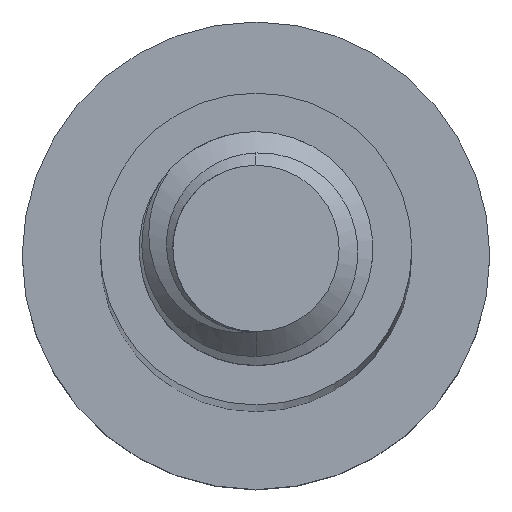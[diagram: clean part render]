
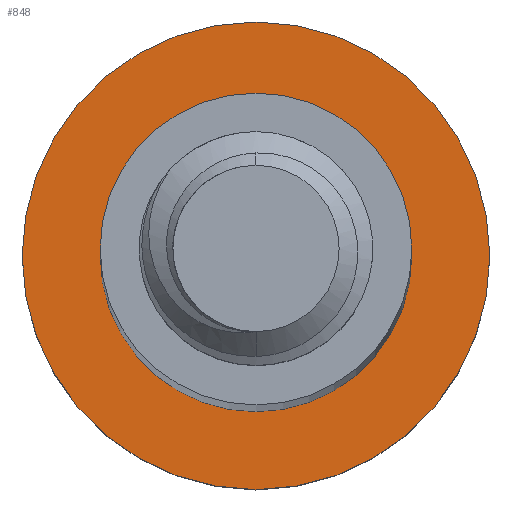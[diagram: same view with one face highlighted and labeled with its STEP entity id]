
A CAD part, top view. The second image highlights one B-rep face of the part: STEP entity #848.
In plain terms, the highlighted planar face has unit normal (0, 0, 1).
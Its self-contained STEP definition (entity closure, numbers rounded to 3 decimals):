
#102 = DIRECTION ( 'NONE',  ( 0., 0., -1. ) ) ;
#153 = ORIENTED_EDGE ( 'NONE', *, *, #1390, .T. ) ;
#166 = CIRCLE ( 'NONE', #1780, 2. ) ;
#170 = DIRECTION ( 'NONE',  ( -1., 0., 0. ) ) ;
#234 = DIRECTION ( 'NONE',  ( -1., 0., 0. ) ) ;
#330 = CARTESIAN_POINT ( 'NONE',  ( -3., 0., -50. ) ) ;
#408 = PLANE ( 'NONE',  #1237 ) ;
#429 = VERTEX_POINT ( 'NONE', #1175 ) ;
#476 = CARTESIAN_POINT ( 'NONE',  ( 0., 0., -50. ) ) ;
#491 = DIRECTION ( 'NONE',  ( 0., 0., -1. ) ) ;
#503 = EDGE_CURVE ( 'NONE', #1727, #1320, #1267, .T. ) ;
#505 = CARTESIAN_POINT ( 'NONE',  ( 0., 0., -50. ) ) ;
#540 = EDGE_CURVE ( 'NONE', #889, #429, #1853, .T. ) ;
#543 = DIRECTION ( 'NONE',  ( -1., 0., 0. ) ) ;
#627 = ORIENTED_EDGE ( 'NONE', *, *, #503, .F. ) ;
#748 = FACE_BOUND ( 'NONE', #1435, .T. ) ;
#794 = DIRECTION ( 'NONE',  ( -1., 0., 0. ) ) ;
#796 = CARTESIAN_POINT ( 'NONE',  ( -2., 0., -50. ) ) ;
#838 = CARTESIAN_POINT ( 'NONE',  ( 0., 0., -50. ) ) ;
#848 = ADVANCED_FACE ( 'NONE', ( #748, #1440 ), #408, .F. ) ;
#850 = CARTESIAN_POINT ( 'NONE',  ( 3., 0., -50. ) ) ;
#889 = VERTEX_POINT ( 'NONE', #796 ) ;
#940 = AXIS2_PLACEMENT_3D ( 'NONE', #476, #2020, #170 ) ;
#1175 = CARTESIAN_POINT ( 'NONE',  ( 2., 0., -50. ) ) ;
#1237 = AXIS2_PLACEMENT_3D ( 'NONE', #1307, #2006, #234 ) ;
#1239 = AXIS2_PLACEMENT_3D ( 'NONE', #1645, #102, #794 ) ;
#1267 = CIRCLE ( 'NONE', #940, 3. ) ;
#1307 = CARTESIAN_POINT ( 'NONE',  ( 0., 0., -50. ) ) ;
#1320 = VERTEX_POINT ( 'NONE', #330 ) ;
#1329 = EDGE_LOOP ( 'NONE', ( #627, #2076 ) ) ;
#1390 = EDGE_CURVE ( 'NONE', #429, #889, #166, .T. ) ;
#1435 = EDGE_LOOP ( 'NONE', ( #1929, #153 ) ) ;
#1440 = FACE_OUTER_BOUND ( 'NONE', #1329, .T. ) ;
#1454 = CIRCLE ( 'NONE', #1239, 3. ) ;
#1645 = CARTESIAN_POINT ( 'NONE',  ( 0., 0., -50. ) ) ;
#1727 = VERTEX_POINT ( 'NONE', #850 ) ;
#1772 = AXIS2_PLACEMENT_3D ( 'NONE', #838, #491, #1871 ) ;
#1780 = AXIS2_PLACEMENT_3D ( 'NONE', #505, #2102, #543 ) ;
#1853 = CIRCLE ( 'NONE', #1772, 2. ) ;
#1871 = DIRECTION ( 'NONE',  ( -1., 0., 0. ) ) ;
#1914 = EDGE_CURVE ( 'NONE', #1320, #1727, #1454, .T. ) ;
#1929 = ORIENTED_EDGE ( 'NONE', *, *, #540, .T. ) ;
#2006 = DIRECTION ( 'NONE',  ( 0., 0., -1. ) ) ;
#2020 = DIRECTION ( 'NONE',  ( 0., 0., -1. ) ) ;
#2076 = ORIENTED_EDGE ( 'NONE', *, *, #1914, .F. ) ;
#2102 = DIRECTION ( 'NONE',  ( 0., 0., -1. ) ) ;
